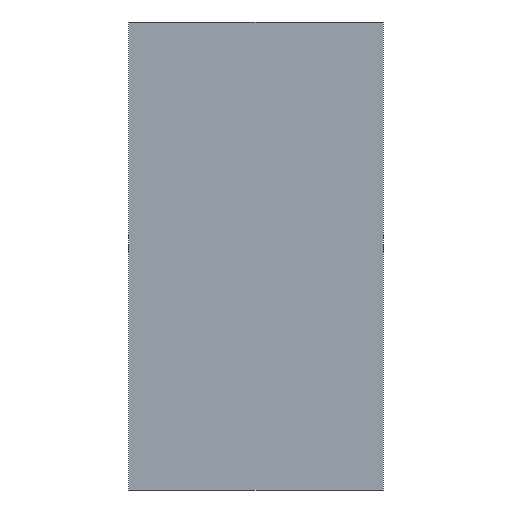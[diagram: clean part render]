
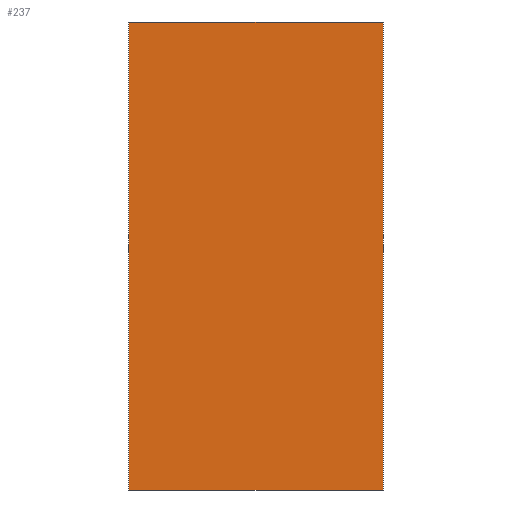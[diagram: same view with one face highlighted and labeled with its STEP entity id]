
A CAD part, front view. The second image highlights one B-rep face of the part: STEP entity #237.
In plain terms, the highlighted planar face has unit normal (0, -1, 0).
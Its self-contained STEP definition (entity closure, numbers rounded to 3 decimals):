
#21 = EDGE_CURVE('',#22,#24,#26,.T.);
#22 = VERTEX_POINT('',#23);
#23 = CARTESIAN_POINT('',(-163.,280.,0.));
#24 = VERTEX_POINT('',#25);
#25 = CARTESIAN_POINT('',(-163.,280.,600.));
#26 = SURFACE_CURVE('',#27,(#31,#43),.PCURVE_S1.);
#27 = LINE('',#28,#29);
#28 = CARTESIAN_POINT('',(-163.,280.,0.));
#29 = VECTOR('',#30,1.);
#30 = DIRECTION('',(0.,0.,1.));
#31 = PCURVE('',#32,#37);
#32 = PLANE('',#33);
#33 = AXIS2_PLACEMENT_3D('',#34,#35,#36);
#34 = CARTESIAN_POINT('',(-163.,280.,0.));
#35 = DIRECTION('',(1.,0.,0.));
#36 = DIRECTION('',(0.,0.,1.));
#37 = DEFINITIONAL_REPRESENTATION('',(#38),#42);
#38 = LINE('',#39,#40);
#39 = CARTESIAN_POINT('',(0.,0.));
#40 = VECTOR('',#41,1.);
#41 = DIRECTION('',(1.,0.));
#42 = ( GEOMETRIC_REPRESENTATION_CONTEXT(2) 
PARAMETRIC_REPRESENTATION_CONTEXT() REPRESENTATION_CONTEXT('2D SPACE',''
  ) );
#43 = PCURVE('',#44,#49);
#44 = PLANE('',#45);
#45 = AXIS2_PLACEMENT_3D('',#46,#47,#48);
#46 = CARTESIAN_POINT('',(-163.,280.,0.));
#47 = DIRECTION('',(0.,1.,0.));
#48 = DIRECTION('',(0.,0.,1.));
#49 = DEFINITIONAL_REPRESENTATION('',(#50),#54);
#50 = LINE('',#51,#52);
#51 = CARTESIAN_POINT('',(0.,0.));
#52 = VECTOR('',#53,1.);
#53 = DIRECTION('',(1.,0.));
#54 = ( GEOMETRIC_REPRESENTATION_CONTEXT(2) 
PARAMETRIC_REPRESENTATION_CONTEXT() REPRESENTATION_CONTEXT('2D SPACE',''
  ) );
#72 = PLANE('',#73);
#73 = AXIS2_PLACEMENT_3D('',#74,#75,#76);
#74 = CARTESIAN_POINT('',(-163.,280.,0.));
#75 = DIRECTION('',(0.,0.,1.));
#76 = DIRECTION('',(1.,0.,0.));
#126 = PLANE('',#127);
#127 = AXIS2_PLACEMENT_3D('',#128,#129,#130);
#128 = CARTESIAN_POINT('',(-163.,280.,600.));
#129 = DIRECTION('',(0.,0.,1.));
#130 = DIRECTION('',(1.,0.,0.));
#141 = EDGE_CURVE('',#142,#144,#146,.T.);
#142 = VERTEX_POINT('',#143);
#143 = CARTESIAN_POINT('',(163.,280.,0.));
#144 = VERTEX_POINT('',#145);
#145 = CARTESIAN_POINT('',(163.,280.,600.));
#146 = SURFACE_CURVE('',#147,(#151,#163),.PCURVE_S1.);
#147 = LINE('',#148,#149);
#148 = CARTESIAN_POINT('',(163.,280.,0.));
#149 = VECTOR('',#150,1.);
#150 = DIRECTION('',(0.,0.,1.));
#151 = PCURVE('',#152,#157);
#152 = PLANE('',#153);
#153 = AXIS2_PLACEMENT_3D('',#154,#155,#156);
#154 = CARTESIAN_POINT('',(163.,280.,0.));
#155 = DIRECTION('',(1.,0.,0.));
#156 = DIRECTION('',(0.,0.,1.));
#157 = DEFINITIONAL_REPRESENTATION('',(#158),#162);
#158 = LINE('',#159,#160);
#159 = CARTESIAN_POINT('',(0.,0.));
#160 = VECTOR('',#161,1.);
#161 = DIRECTION('',(1.,0.));
#162 = ( GEOMETRIC_REPRESENTATION_CONTEXT(2) 
PARAMETRIC_REPRESENTATION_CONTEXT() REPRESENTATION_CONTEXT('2D SPACE',''
  ) );
#163 = PCURVE('',#44,#164);
#164 = DEFINITIONAL_REPRESENTATION('',(#165),#169);
#165 = LINE('',#166,#167);
#166 = CARTESIAN_POINT('',(0.,326.));
#167 = VECTOR('',#168,1.);
#168 = DIRECTION('',(1.,0.));
#169 = ( GEOMETRIC_REPRESENTATION_CONTEXT(2) 
PARAMETRIC_REPRESENTATION_CONTEXT() REPRESENTATION_CONTEXT('2D SPACE',''
  ) );
#237 = ADVANCED_FACE('',(#238),#44,.F.);
#238 = FACE_BOUND('',#239,.F.);
#239 = EDGE_LOOP('',(#240,#261,#262,#283));
#240 = ORIENTED_EDGE('',*,*,#241,.F.);
#241 = EDGE_CURVE('',#22,#142,#242,.T.);
#242 = SURFACE_CURVE('',#243,(#247,#254),.PCURVE_S1.);
#243 = LINE('',#244,#245);
#244 = CARTESIAN_POINT('',(-163.,280.,0.));
#245 = VECTOR('',#246,1.);
#246 = DIRECTION('',(1.,0.,0.));
#247 = PCURVE('',#44,#248);
#248 = DEFINITIONAL_REPRESENTATION('',(#249),#253);
#249 = LINE('',#250,#251);
#250 = CARTESIAN_POINT('',(0.,0.));
#251 = VECTOR('',#252,1.);
#252 = DIRECTION('',(0.,1.));
#253 = ( GEOMETRIC_REPRESENTATION_CONTEXT(2) 
PARAMETRIC_REPRESENTATION_CONTEXT() REPRESENTATION_CONTEXT('2D SPACE',''
  ) );
#254 = PCURVE('',#72,#255);
#255 = DEFINITIONAL_REPRESENTATION('',(#256),#260);
#256 = LINE('',#257,#258);
#257 = CARTESIAN_POINT('',(0.,0.));
#258 = VECTOR('',#259,1.);
#259 = DIRECTION('',(1.,0.));
#260 = ( GEOMETRIC_REPRESENTATION_CONTEXT(2) 
PARAMETRIC_REPRESENTATION_CONTEXT() REPRESENTATION_CONTEXT('2D SPACE',''
  ) );
#261 = ORIENTED_EDGE('',*,*,#21,.T.);
#262 = ORIENTED_EDGE('',*,*,#263,.T.);
#263 = EDGE_CURVE('',#24,#144,#264,.T.);
#264 = SURFACE_CURVE('',#265,(#269,#276),.PCURVE_S1.);
#265 = LINE('',#266,#267);
#266 = CARTESIAN_POINT('',(-163.,280.,600.));
#267 = VECTOR('',#268,1.);
#268 = DIRECTION('',(1.,0.,0.));
#269 = PCURVE('',#44,#270);
#270 = DEFINITIONAL_REPRESENTATION('',(#271),#275);
#271 = LINE('',#272,#273);
#272 = CARTESIAN_POINT('',(600.,0.));
#273 = VECTOR('',#274,1.);
#274 = DIRECTION('',(0.,1.));
#275 = ( GEOMETRIC_REPRESENTATION_CONTEXT(2) 
PARAMETRIC_REPRESENTATION_CONTEXT() REPRESENTATION_CONTEXT('2D SPACE',''
  ) );
#276 = PCURVE('',#126,#277);
#277 = DEFINITIONAL_REPRESENTATION('',(#278),#282);
#278 = LINE('',#279,#280);
#279 = CARTESIAN_POINT('',(0.,0.));
#280 = VECTOR('',#281,1.);
#281 = DIRECTION('',(1.,0.));
#282 = ( GEOMETRIC_REPRESENTATION_CONTEXT(2) 
PARAMETRIC_REPRESENTATION_CONTEXT() REPRESENTATION_CONTEXT('2D SPACE',''
  ) );
#283 = ORIENTED_EDGE('',*,*,#141,.F.);
